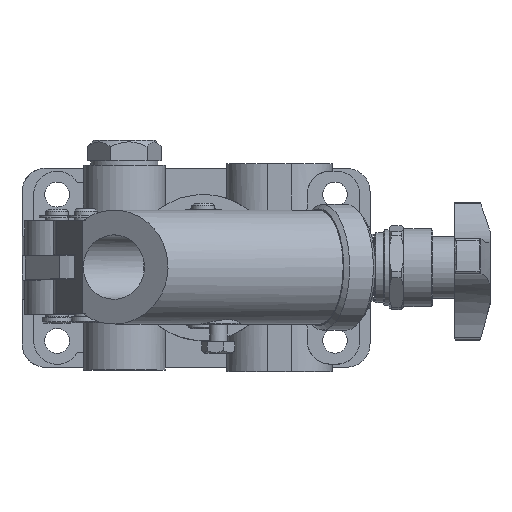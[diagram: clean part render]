
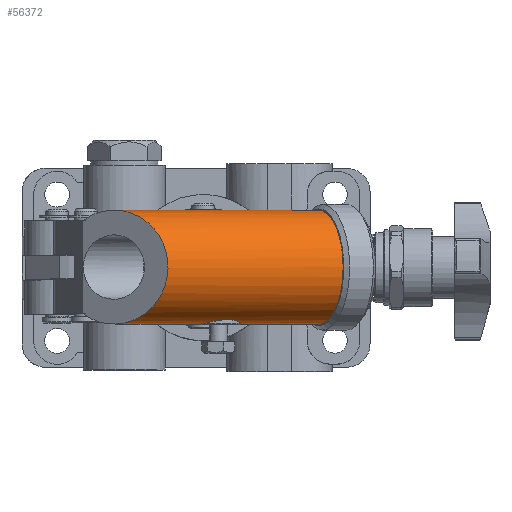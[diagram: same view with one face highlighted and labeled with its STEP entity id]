
A CAD part, top view. The second image highlights one B-rep face of the part: STEP entity #56372.
In plain terms, the highlighted cylindrical face has radius 19.48 mm (diameter 38.961 mm), a partial arc.
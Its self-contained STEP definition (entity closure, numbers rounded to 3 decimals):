
#71=ELLIPSE('',#59477,20.731,19.481);
#72=ELLIPSE('',#59482,20.731,19.481);
#73=ELLIPSE('',#59485,20.731,19.481);
#74=ELLIPSE('',#59488,22.494,19.481);
#75=ELLIPSE('',#59491,20.731,19.481);
#192=B_SPLINE_CURVE_WITH_KNOTS('',3,(#83998,#83999,#84000,#84001,#84002,
#84003),.UNSPECIFIED.,.F.,.F.,(4,1,1,4),(0.039,0.043,
0.045,0.047),.UNSPECIFIED.);
#193=B_SPLINE_CURVE_WITH_KNOTS('',3,(#84005,#84006,#84007,#84008,#84009),
 .UNSPECIFIED.,.F.,.F.,(4,1,4),(0.,0.004,0.009),
 .UNSPECIFIED.);
#194=B_SPLINE_CURVE_WITH_KNOTS('',3,(#84013,#84014,#84015,#84016,#84017),
 .UNSPECIFIED.,.F.,.F.,(4,1,4),(0.032,0.035,0.039),
 .UNSPECIFIED.);
#195=B_SPLINE_CURVE_WITH_KNOTS('',3,(#84019,#84020,#84021,#84022,#84023,
#84024,#84025),.UNSPECIFIED.,.F.,.F.,(4,1,1,1,4),(0.015,0.019,
0.024,0.028,0.032),.UNSPECIFIED.);
#196=B_SPLINE_CURVE_WITH_KNOTS('',3,(#84027,#84028,#84029,#84030,#84031),
 .UNSPECIFIED.,.F.,.F.,(4,1,4),(0.009,0.012,
0.015),.UNSPECIFIED.);
#4928=LINE('',#83965,#9676);
#4929=LINE('',#83966,#9677);
#4933=LINE('',#83976,#9681);
#4934=LINE('',#83978,#9682);
#4936=LINE('',#83984,#9684);
#4937=LINE('',#83988,#9685);
#4940=LINE('',#83996,#9688);
#9676=VECTOR('',#70386,1000.);
#9677=VECTOR('',#70387,1000.);
#9681=VECTOR('',#70397,1000.);
#9682=VECTOR('',#70398,1000.);
#9684=VECTOR('',#70406,1000.);
#9685=VECTOR('',#70413,1000.);
#9688=VECTOR('',#70422,1000.);
#10040=CYLINDRICAL_SURFACE('',#59495,19.481);
#21523=ORIENTED_EDGE('',*,*,#27360,.F.);
#21524=ORIENTED_EDGE('',*,*,#27359,.T.);
#21525=ORIENTED_EDGE('',*,*,#27356,.T.);
#21526=ORIENTED_EDGE('',*,*,#27355,.T.);
#21527=ORIENTED_EDGE('',*,*,#27354,.F.);
#21528=ORIENTED_EDGE('',*,*,#27352,.T.);
#21529=ORIENTED_EDGE('',*,*,#27351,.F.);
#21530=ORIENTED_EDGE('',*,*,#27361,.F.);
#21531=ORIENTED_EDGE('',*,*,#27364,.F.);
#21532=ORIENTED_EDGE('',*,*,#27365,.F.);
#21533=ORIENTED_EDGE('',*,*,#27366,.F.);
#21534=ORIENTED_EDGE('',*,*,#27362,.F.);
#21535=ORIENTED_EDGE('',*,*,#27350,.F.);
#21536=ORIENTED_EDGE('',*,*,#27348,.F.);
#21537=ORIENTED_EDGE('',*,*,#27345,.T.);
#21538=ORIENTED_EDGE('',*,*,#27342,.T.);
#21539=ORIENTED_EDGE('',*,*,#27344,.T.);
#21540=ORIENTED_EDGE('',*,*,#27340,.F.);
#27340=EDGE_CURVE('',#31188,#31189,#71,.T.);
#27342=EDGE_CURVE('',#31190,#31191,#32112,.T.);
#27344=EDGE_CURVE('',#31191,#31189,#4928,.F.);
#27345=EDGE_CURVE('',#31192,#31190,#4929,.T.);
#27348=EDGE_CURVE('',#31192,#31193,#72,.T.);
#27350=EDGE_CURVE('',#31193,#31195,#4933,.F.);
#27351=EDGE_CURVE('',#31195,#31194,#4934,.F.);
#27352=EDGE_CURVE('',#31196,#31194,#73,.T.);
#27354=EDGE_CURVE('',#31196,#31169,#4936,.F.);
#27355=EDGE_CURVE('',#31170,#31169,#74,.T.);
#27356=EDGE_CURVE('',#31197,#31170,#4937,.F.);
#27359=EDGE_CURVE('',#31198,#31197,#75,.T.);
#27360=EDGE_CURVE('',#31198,#31188,#4940,.T.);
#27361=EDGE_CURVE('',#31199,#31195,#192,.T.);
#27362=EDGE_CURVE('',#31195,#31200,#193,.T.);
#27364=EDGE_CURVE('',#31201,#31199,#194,.T.);
#27365=EDGE_CURVE('',#31202,#31201,#195,.T.);
#27366=EDGE_CURVE('',#31200,#31202,#196,.T.);
#31169=VERTEX_POINT('',#83896);
#31170=VERTEX_POINT('',#83898);
#31188=VERTEX_POINT('',#83955);
#31189=VERTEX_POINT('',#83957);
#31190=VERTEX_POINT('',#83961);
#31191=VERTEX_POINT('',#83962);
#31192=VERTEX_POINT('',#83967);
#31193=VERTEX_POINT('',#83971);
#31194=VERTEX_POINT('',#83975);
#31195=VERTEX_POINT('',#83977);
#31196=VERTEX_POINT('',#83981);
#31197=VERTEX_POINT('',#83989);
#31198=VERTEX_POINT('',#83993);
#31199=VERTEX_POINT('',#84004);
#31200=VERTEX_POINT('',#84010);
#31201=VERTEX_POINT('',#84018);
#31202=VERTEX_POINT('',#84026);
#32112=CIRCLE('',#59479,19.481);
#34928=EDGE_LOOP('',(#21523,#21524,#21525,#21526,#21527,#21528,#21529,#21530,
#21531,#21532,#21533,#21534,#21535,#21536,#21537,#21538,#21539,#21540));
#37763=FACE_BOUND('',#34928,.T.);
#56372=ADVANCED_FACE('',(#37763),#10040,.T.);
#59477=AXIS2_PLACEMENT_3D('',#83956,#70376,#70377);
#59479=AXIS2_PLACEMENT_3D('',#83960,#70381,#70382);
#59482=AXIS2_PLACEMENT_3D('',#83972,#70392,#70393);
#59485=AXIS2_PLACEMENT_3D('',#83980,#70401,#70402);
#59488=AXIS2_PLACEMENT_3D('',#83986,#70409,#70410);
#59491=AXIS2_PLACEMENT_3D('',#83994,#70418,#70419);
#59495=AXIS2_PLACEMENT_3D('',#84012,#70427,#70428);
#70376=DIRECTION('',(-0.702,0.,0.712));
#70377=DIRECTION('',(0.712,0.,0.702));
#70381=DIRECTION('',(-0.903,0.,0.429));
#70382=DIRECTION('',(0.429,0.,0.903));
#70386=DIRECTION('',(0.903,0.,-0.429));
#70387=DIRECTION('',(0.903,0.,-0.429));
#70392=DIRECTION('',(-0.702,0.,0.712));
#70393=DIRECTION('',(0.712,0.,0.702));
#70397=DIRECTION('',(0.903,0.,-0.429));
#70398=DIRECTION('',(0.903,0.,-0.429));
#70401=DIRECTION('',(-0.996,0.,0.094));
#70402=DIRECTION('',(-0.094,0.,-0.996));
#70406=DIRECTION('',(0.903,0.,-0.429));
#70409=DIRECTION('',(0.568,0.,-0.823));
#70410=DIRECTION('',(0.823,0.,0.568));
#70413=DIRECTION('',(0.903,0.,-0.429));
#70418=DIRECTION('',(-0.996,0.,0.094));
#70419=DIRECTION('',(-0.094,0.,-0.996));
#70422=DIRECTION('',(0.903,0.,-0.429));
#70427=DIRECTION('',(0.903,0.,-0.429));
#70428=DIRECTION('',(-0.429,0.,-0.903));
#83896=CARTESIAN_POINT('',(-41.164,-15.984,138.41));
#83898=CARTESIAN_POINT('',(-41.164,15.984,138.41));
#83955=CARTESIAN_POINT('',(35.198,17.982,106.214));
#83956=CARTESIAN_POINT('',(40.873,0.,111.814));
#83957=CARTESIAN_POINT('',(27.252,7.492,98.374));
#83960=CARTESIAN_POINT('',(39.426,0.,112.501));
#83961=CARTESIAN_POINT('',(31.718,-7.493,96.255));
#83962=CARTESIAN_POINT('',(31.718,7.492,96.255));
#83965=CARTESIAN_POINT('',(-44.098,7.492,132.224));
#83966=CARTESIAN_POINT('',(-44.098,-7.493,132.224));
#83967=CARTESIAN_POINT('',(27.252,-7.493,98.374));
#83971=CARTESIAN_POINT('',(35.198,-17.982,106.214));
#83972=CARTESIAN_POINT('',(40.873,0.,111.814));
#83975=CARTESIAN_POINT('',(-11.063,-17.982,128.162));
#83976=CARTESIAN_POINT('',(-39.602,-17.982,141.701));
#83977=CARTESIAN_POINT('',(1.916,-17.982,122.004));
#83978=CARTESIAN_POINT('',(-39.602,-17.982,141.701));
#83980=CARTESIAN_POINT('',(-10.316,0.,136.1));
#83981=CARTESIAN_POINT('',(-11.427,-15.984,124.302));
#83984=CARTESIAN_POINT('',(-41.164,-15.984,138.41));
#83986=CARTESIAN_POINT('',(-30.582,0.,145.715));
#83988=CARTESIAN_POINT('',(-41.164,15.984,138.41));
#83989=CARTESIAN_POINT('',(-11.427,15.984,124.302));
#83993=CARTESIAN_POINT('',(-11.063,17.982,128.162));
#83994=CARTESIAN_POINT('',(-10.316,0.,136.1));
#83996=CARTESIAN_POINT('',(-39.602,17.982,141.701));
#83998=CARTESIAN_POINT('',(-2.364,-19.231,128.886));
#83999=CARTESIAN_POINT('',(-2.385,-19.021,127.459));
#84000=CARTESIAN_POINT('',(-1.797,-18.538,125.331));
#84001=CARTESIAN_POINT('',(0.063,-18.071,123.114));
#84002=CARTESIAN_POINT('',(1.257,-17.982,122.317));
#84003=CARTESIAN_POINT('',(1.916,-17.982,122.004));
#84004=CARTESIAN_POINT('',(-2.364,-19.231,128.886));
#84005=CARTESIAN_POINT('',(1.916,-17.982,122.004));
#84006=CARTESIAN_POINT('',(3.235,-17.982,121.378));
#84007=CARTESIAN_POINT('',(6.165,-18.372,120.937));
#84008=CARTESIAN_POINT('',(8.868,-19.022,122.127));
#84009=CARTESIAN_POINT('',(9.954,-19.231,123.042));
#84010=CARTESIAN_POINT('',(9.954,-19.231,123.042));
#84012=CARTESIAN_POINT('',(-36.39,0.,148.471));
#84013=CARTESIAN_POINT('',(0.302,-19.231,134.504));
#84014=CARTESIAN_POINT('',(-0.516,-19.388,133.816));
#84015=CARTESIAN_POINT('',(-1.851,-19.574,132.089));
#84016=CARTESIAN_POINT('',(-2.348,-19.387,129.946));
#84017=CARTESIAN_POINT('',(-2.364,-19.231,128.886));
#84018=CARTESIAN_POINT('',(0.302,-19.231,134.504));
#84019=CARTESIAN_POINT('',(12.62,-19.231,128.66));
#84020=CARTESIAN_POINT('',(12.641,-19.02,130.096));
#84021=CARTESIAN_POINT('',(11.864,-18.374,132.909));
#84022=CARTESIAN_POINT('',(8.532,-17.786,135.931));
#84023=CARTESIAN_POINT('',(4.071,-18.373,136.608));
#84024=CARTESIAN_POINT('',(1.402,-19.019,135.431));
#84025=CARTESIAN_POINT('',(0.302,-19.231,134.504));
#84026=CARTESIAN_POINT('',(12.62,-19.231,128.66));
#84027=CARTESIAN_POINT('',(9.954,-19.231,123.042));
#84028=CARTESIAN_POINT('',(10.761,-19.386,123.721));
#84029=CARTESIAN_POINT('',(12.108,-19.574,125.456));
#84030=CARTESIAN_POINT('',(12.603,-19.388,127.594));
#84031=CARTESIAN_POINT('',(12.62,-19.231,128.66));
